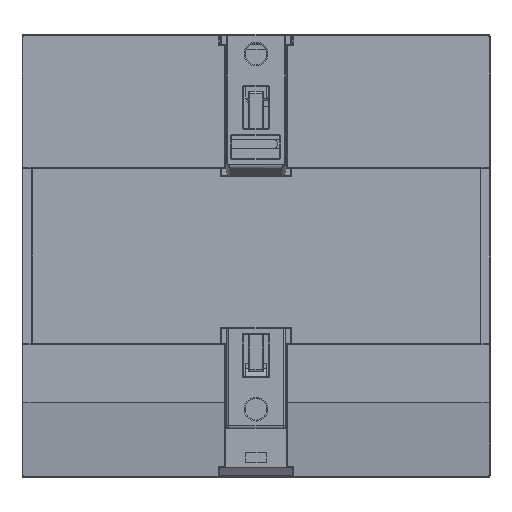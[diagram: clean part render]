
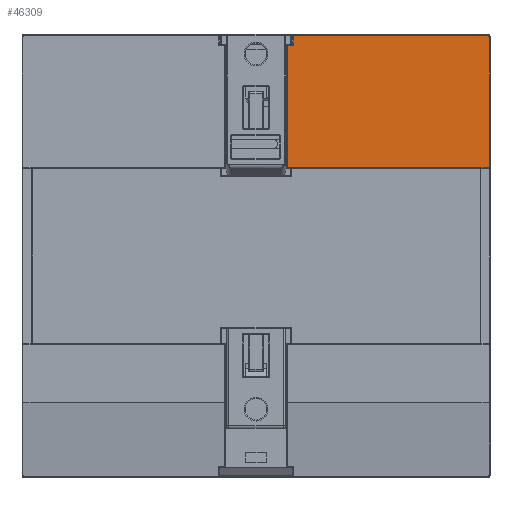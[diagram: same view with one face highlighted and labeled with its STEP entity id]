
A CAD part, front view. The second image highlights one B-rep face of the part: STEP entity #46309.
In plain terms, the highlighted planar face has unit normal (0, -1, 0).
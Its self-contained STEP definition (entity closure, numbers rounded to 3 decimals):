
#1649 = VECTOR ( 'NONE', #26652, 1000. ) ;
#1985 = VERTEX_POINT ( 'NONE', #36933 ) ;
#2549 = AXIS2_PLACEMENT_3D ( 'NONE', #7045, #52197, #15466 ) ;
#2632 = EDGE_CURVE ( 'NONE', #1985, #11898, #45103, .T. ) ;
#2642 = ORIENTED_EDGE ( 'NONE', *, *, #17516, .T. ) ;
#4567 = DIRECTION ( 'NONE',  ( 0., 0., 1. ) ) ;
#4941 = CIRCLE ( 'NONE', #42275, 0.3 ) ;
#6009 = EDGE_CURVE ( 'NONE', #15355, #10887, #16980, .T. ) ;
#7045 = CARTESIAN_POINT ( 'NONE',  ( -95., 0., 0. ) ) ;
#7313 = DIRECTION ( 'NONE',  ( -1., 0., 0. ) ) ;
#7575 = CARTESIAN_POINT ( 'NONE',  ( -41.1, 0., -27.25 ) ) ;
#8486 = DIRECTION ( 'NONE',  ( 0., -1., 0. ) ) ;
#10887 = VERTEX_POINT ( 'NONE', #41323 ) ;
#11196 = VERTEX_POINT ( 'NONE', #19016 ) ;
#11446 = DIRECTION ( 'NONE',  ( 1., 0., 0. ) ) ;
#11898 = VERTEX_POINT ( 'NONE', #34918 ) ;
#12131 = ORIENTED_EDGE ( 'NONE', *, *, #50299, .T. ) ;
#13123 = CARTESIAN_POINT ( 'NONE',  ( -0.5, 0., -0.5 ) ) ;
#13464 = ORIENTED_EDGE ( 'NONE', *, *, #45168, .T. ) ;
#13862 = AXIS2_PLACEMENT_3D ( 'NONE', #13123, #8486, #25053 ) ;
#15264 = EDGE_LOOP ( 'NONE', ( #13464, #41182, #50086, #29755, #2642, #12131, #24274, #43021 ) ) ;
#15355 = VERTEX_POINT ( 'NONE', #38770 ) ;
#15466 = DIRECTION ( 'NONE',  ( 0., 0., -1. ) ) ;
#15529 = CARTESIAN_POINT ( 'NONE',  ( -95., 0., -27.05 ) ) ;
#16155 = EDGE_CURVE ( 'NONE', #23523, #1985, #38630, .T. ) ;
#16812 = LINE ( 'NONE', #17082, #50008 ) ;
#16980 = LINE ( 'NONE', #53682, #49350 ) ;
#17082 = CARTESIAN_POINT ( 'NONE',  ( -0.2, 0., -0.5 ) ) ;
#17516 = EDGE_CURVE ( 'NONE', #11196, #38552, #28526, .T. ) ;
#18112 = VECTOR ( 'NONE', #11446, 1000. ) ;
#19016 = CARTESIAN_POINT ( 'NONE',  ( -41.1, 0., -27.05 ) ) ;
#19545 = PLANE ( 'NONE',  #2549 ) ;
#19613 = CARTESIAN_POINT ( 'NONE',  ( -39.85, 0., -0.5 ) ) ;
#20263 = DIRECTION ( 'NONE',  ( 0., 0., -1. ) ) ;
#23523 = VERTEX_POINT ( 'NONE', #19613 ) ;
#24055 = CARTESIAN_POINT ( 'NONE',  ( -39.55, 0., -0.5 ) ) ;
#24274 = ORIENTED_EDGE ( 'NONE', *, *, #35207, .T. ) ;
#25053 = DIRECTION ( 'NONE',  ( 0., 0., -1. ) ) ;
#25125 = CIRCLE ( 'NONE', #13862, 0.3 ) ;
#26652 = DIRECTION ( 'NONE',  ( 0., 0., -1. ) ) ;
#28526 = LINE ( 'NONE', #15529, #18112 ) ;
#28904 = CARTESIAN_POINT ( 'NONE',  ( -0.2, 0., -27.05 ) ) ;
#29755 = ORIENTED_EDGE ( 'NONE', *, *, #47498, .T. ) ;
#32837 = CARTESIAN_POINT ( 'NONE',  ( -95., 0., -2.2 ) ) ;
#34825 = CARTESIAN_POINT ( 'NONE',  ( -39.85, 0., -2. ) ) ;
#34918 = CARTESIAN_POINT ( 'NONE',  ( -41.1, 0., -2.2 ) ) ;
#35207 = EDGE_CURVE ( 'NONE', #42650, #15355, #25125, .T. ) ;
#36933 = CARTESIAN_POINT ( 'NONE',  ( -39.85, 0., -2.2 ) ) ;
#38164 = DIRECTION ( 'NONE',  ( -1., 0., 0. ) ) ;
#38223 = VECTOR ( 'NONE', #7313, 1000. ) ;
#38552 = VERTEX_POINT ( 'NONE', #28904 ) ;
#38630 = LINE ( 'NONE', #34825, #1649 ) ;
#38770 = CARTESIAN_POINT ( 'NONE',  ( -0.5, 0., -0.2 ) ) ;
#41182 = ORIENTED_EDGE ( 'NONE', *, *, #16155, .T. ) ;
#41323 = CARTESIAN_POINT ( 'NONE',  ( -39.55, 0., -0.2 ) ) ;
#42275 = AXIS2_PLACEMENT_3D ( 'NONE', #24055, #45536, #20263 ) ;
#42650 = VERTEX_POINT ( 'NONE', #45201 ) ;
#43021 = ORIENTED_EDGE ( 'NONE', *, *, #6009, .T. ) ;
#44028 = FACE_OUTER_BOUND ( 'NONE', #15264, .T. ) ;
#44037 = DIRECTION ( 'NONE',  ( 0., 0., -1. ) ) ;
#44563 = LINE ( 'NONE', #7575, #46277 ) ;
#45103 = LINE ( 'NONE', #32837, #38223 ) ;
#45168 = EDGE_CURVE ( 'NONE', #10887, #23523, #4941, .T. ) ;
#45201 = CARTESIAN_POINT ( 'NONE',  ( -0.2, 0., -0.5 ) ) ;
#45536 = DIRECTION ( 'NONE',  ( 0., -1., 0. ) ) ;
#46277 = VECTOR ( 'NONE', #44037, 1000. ) ;
#46309 = ADVANCED_FACE ( 'NONE', ( #44028 ), #19545, .T. ) ;
#47498 = EDGE_CURVE ( 'NONE', #11898, #11196, #44563, .T. ) ;
#49350 = VECTOR ( 'NONE', #38164, 1000. ) ;
#50008 = VECTOR ( 'NONE', #4567, 1000. ) ;
#50086 = ORIENTED_EDGE ( 'NONE', *, *, #2632, .T. ) ;
#50299 = EDGE_CURVE ( 'NONE', #38552, #42650, #16812, .T. ) ;
#52197 = DIRECTION ( 'NONE',  ( 0., -1., 0. ) ) ;
#53682 = CARTESIAN_POINT ( 'NONE',  ( -95., 0., -0.2 ) ) ;
